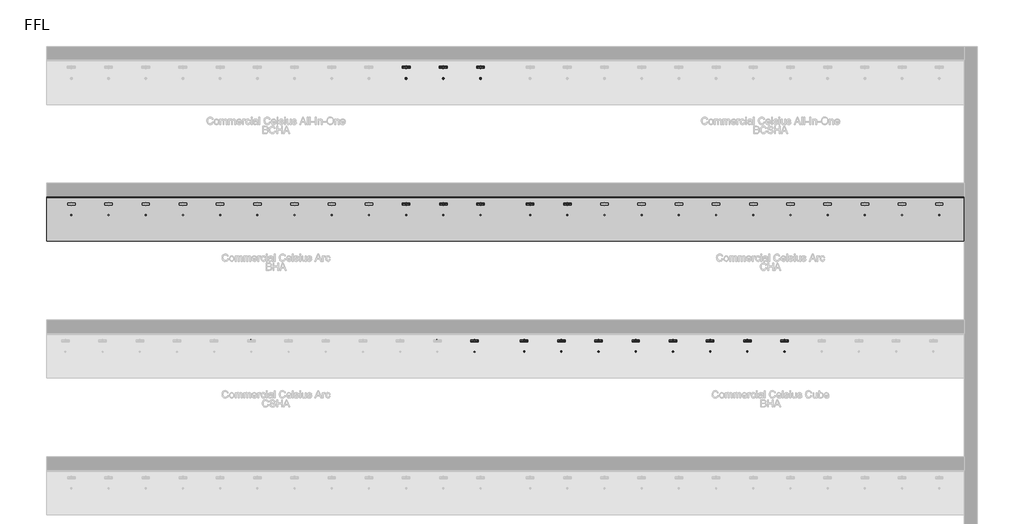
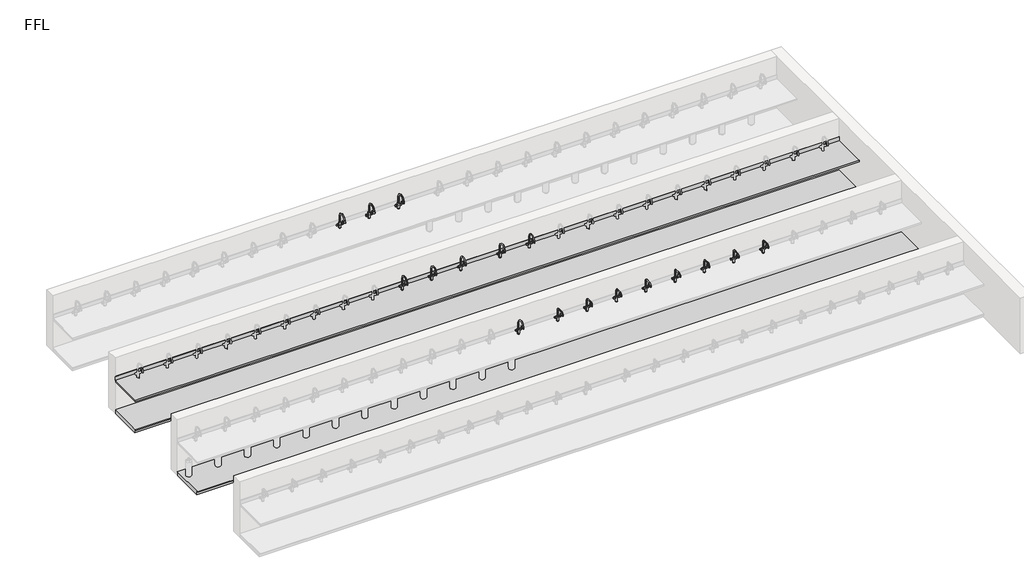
# One storey, part 3 of 9: 27 flow terminals, 3 furniture elements.
"""IFC4 building model written with IfcOpenShell, lengths in millimetres."""

from ifc_helpers import new_model, si_unit, frame, origin, place, context, project, spatial, polyline, circle_curve, transform, mapped, element, save
from ifc_brep_helpers import plane_surface, revolved_surface, advanced_brep
from components import flow_terminal_100_people_nickel_0dc622b1, bright_chrome_ca6152f3, bright_chrome_d5fbbf34, bright_chrome_d1e259f6, generic_plinth_900mm_f287d53f

model = new_model("IFC4")

# Units and contexts
model_context = context("Model", 3, world=origin())
ifc_project = project(units=[si_unit("LENGTHUNIT", "METRE", prefix="MILLI")], contexts=[model_context])

# Site, building, storey
site = spatial("IfcSite", under=ifc_project)
building = spatial("IfcBuilding", under=site)
storey = spatial("IfcBuildingStorey", under=building, Name="FFL", Elevation=0.0)

# Flow terminals
placement = place(None, origin())
flow_terminal_100_people_nickel_shape = flow_terminal_100_people_nickel_0dc622b1(model_context)
element("IfcFlowTerminal", 1, ObjectType="PlumFixt_Zip Commercial_Celsius Arc_CHA : 100 People - Bright Chrome", at=placement, inside=storey, context=model_context, shape_type="MappedRepresentation", body=[
    mapped(flow_terminal_100_people_nickel_shape, transform((2779.2647071, 4822.7393304, 0.0), x_axis=(1.0, 0.0, 0.0), y_axis=(0.0, 1.0, 0.0), z_axis=(0.0, 0.0, 1.0))),
])
element("IfcFlowTerminal", 2, ObjectType="PlumFixt_Zip Commercial_Celsius Arc_CHA : 100 People - Brushed Chrome", at=placement, inside=storey, context=model_context, shape_type="MappedRepresentation", body=[
    mapped(flow_terminal_100_people_nickel_shape, transform((3529.2647071, 4822.7393304, 0.0), x_axis=(1.0, 0.0, 0.0), y_axis=(0.0, 1.0, 0.0), z_axis=(0.0, 0.0, 1.0))),
])
element("IfcFlowTerminal", 3, ObjectType="PlumFixt_Zip Commercial_Celsius Cube_BHA : 100 People - Gold", at=placement, inside=storey, context=model_context, shape_type="MappedRepresentation", body=[
    mapped(flow_terminal_100_people_nickel_shape, transform((7159.2647071, 2062.7393304, 0.0), x_axis=(1.0, 0.0, 0.0), y_axis=(0.0, 1.0, 0.0), z_axis=(0.0, 0.0, 1.0))),
])
element("IfcFlowTerminal", 4, ObjectType="PlumFixt_Zip Commercial_Celsius Cube_BHA : 100 People - Gunmetal", at=placement, inside=storey, context=model_context, shape_type="MappedRepresentation", body=[
    mapped(flow_terminal_100_people_nickel_shape, transform((7909.2647071, 2062.7393304, 0.0), x_axis=(1.0, 0.0, 0.0), y_axis=(0.0, 1.0, 0.0), z_axis=(0.0, 0.0, 1.0))),
])
element("IfcFlowTerminal", 5, ObjectType="PlumFixt_Zip Commercial_Celsius All-In-One_BCHA : 100 People - Nickel", at=placement, inside=storey, context=model_context, shape_type="MappedRepresentation", body=[
    mapped(flow_terminal_100_people_nickel_shape, transform((279.2647071, 7582.7393304, 0.0), x_axis=(1.0, 0.0, 0.0), y_axis=(0.0, 1.0, 0.0), z_axis=(0.0, 0.0, 1.0))),
])
element("IfcFlowTerminal", 6, ObjectType="PlumFixt_Zip Commercial_Celsius Arc_BHA : 100 People - Nickel", at=placement, inside=storey, context=model_context, shape_type="MappedRepresentation", body=[
    mapped(flow_terminal_100_people_nickel_shape, transform((279.2647071, 4822.7393304, 0.0), x_axis=(1.0, 0.0, 0.0), y_axis=(0.0, 1.0, 0.0), z_axis=(0.0, 0.0, 1.0))),
])
element("IfcFlowTerminal", 7, ObjectType="PlumFixt_Zip Commercial_Celsius All-In-One_BCHA : 100 People - Platinum", at=placement, inside=storey, context=model_context, shape_type="MappedRepresentation", body=[
    mapped(flow_terminal_100_people_nickel_shape, transform((1029.2647071, 7582.7393304, 0.0), x_axis=(1.0, 0.0, 0.0), y_axis=(0.0, 1.0, 0.0), z_axis=(0.0, 0.0, 1.0))),
])
element("IfcFlowTerminal", 8, ObjectType="PlumFixt_Zip Commercial_Celsius Arc_BHA : 100 People - Platinum", at=placement, inside=storey, context=model_context, shape_type="MappedRepresentation", body=[
    mapped(flow_terminal_100_people_nickel_shape, transform((1029.2647071, 4822.7393304, 0.0), x_axis=(1.0, 0.0, 0.0), y_axis=(0.0, 1.0, 0.0), z_axis=(0.0, 0.0, 1.0))),
])
element("IfcFlowTerminal", 9, ObjectType="PlumFixt_Zip Commercial_Celsius All-In-One_BCHA : 100 People - Rose Gold", at=placement, inside=storey, context=model_context, shape_type="MappedRepresentation", body=[
    mapped(flow_terminal_100_people_nickel_shape, transform((1779.2647071, 7582.7393304, 0.0), x_axis=(1.0, 0.0, 0.0), y_axis=(0.0, 1.0, 0.0), z_axis=(0.0, 0.0, 1.0))),
])
element("IfcFlowTerminal", 10, ObjectType="PlumFixt_Zip Commercial_Celsius Arc_BHA : 100 People - Rose Gold", at=placement, inside=storey, context=model_context, shape_type="MappedRepresentation", body=[
    mapped(flow_terminal_100_people_nickel_shape, transform((1779.2647071, 4822.7393304, 0.0), x_axis=(1.0, 0.0, 0.0), y_axis=(0.0, 1.0, 0.0), z_axis=(0.0, 0.0, 1.0))),
])
bright_chrome_shape = bright_chrome_ca6152f3(model_context)
element("IfcFlowTerminal", 11, ObjectType="z_PlumFixt_Zip_Celsius Arc : Bright Chrome", at=placement, inside=storey, context=model_context, shape_type="MappedRepresentation", body=[
    mapped(bright_chrome_shape, transform((2779.2647071, 4849.4893304, 900.0), x_axis=(1.0, 0.0, 0.0), y_axis=(0.0, 1.0, 0.0), z_axis=(0.0, 0.0, 1.0))),
])
bright_chrome_2_shape = bright_chrome_d5fbbf34(model_context)
element("IfcFlowTerminal", 12, ObjectType="z_PlumFixt_Zip_Celsius Cube : Bright Chrome", at=placement, inside=storey, context=model_context, shape_type="MappedRepresentation", body=[
    mapped(bright_chrome_2_shape, transform((2659.2647071, 2089.4893304, 900.0), x_axis=(1.0, 0.0, 0.0), y_axis=(0.0, 1.0, 0.0), z_axis=(0.0, 0.0, 1.0))),
])
element("IfcFlowTerminal", 13, ObjectType="z_PlumFixt_Zip_Celsius Arc : Brushed Chrome", at=placement, inside=storey, context=model_context, shape_type="MappedRepresentation", body=[
    mapped(bright_chrome_shape, transform((3529.2647071, 4849.4893304, 900.0), x_axis=(1.0, 0.0, 0.0), y_axis=(0.0, 1.0, 0.0), z_axis=(0.0, 0.0, 1.0))),
])
element("IfcFlowTerminal", 14, ObjectType="z_PlumFixt_Zip_Celsius Cube : Brushed Chrome", at=placement, inside=storey, context=model_context, shape_type="MappedRepresentation", body=[
    mapped(bright_chrome_2_shape, transform((3409.2647071, 2089.4893304, 900.0), x_axis=(1.0, 0.0, 0.0), y_axis=(0.0, 1.0, 0.0), z_axis=(0.0, 0.0, 1.0))),
])
element("IfcFlowTerminal", 15, ObjectType="z_PlumFixt_Zip_Celsius Cube : Brushed Gold", at=placement, inside=storey, context=model_context, shape_type="MappedRepresentation", body=[
    mapped(bright_chrome_2_shape, transform((4159.2647071, 2089.4893304, 900.0), x_axis=(1.0, 0.0, 0.0), y_axis=(0.0, 1.0, 0.0), z_axis=(0.0, 0.0, 1.0))),
])
element("IfcFlowTerminal", 16, ObjectType="z_PlumFixt_Zip_Celsius Cube : Brushed Nickel", at=placement, inside=storey, context=model_context, shape_type="MappedRepresentation", body=[
    mapped(bright_chrome_2_shape, transform((4909.2647071, 2089.4893304, 900.0), x_axis=(1.0, 0.0, 0.0), y_axis=(0.0, 1.0, 0.0), z_axis=(0.0, 0.0, 1.0))),
])
element("IfcFlowTerminal", 17, ObjectType="z_PlumFixt_Zip_Celsius Cube : Brushed Rose Gold", at=placement, inside=storey, context=model_context, shape_type="MappedRepresentation", body=[
    mapped(bright_chrome_2_shape, transform((5659.2647071, 2089.4893304, 900.0), x_axis=(1.0, 0.0, 0.0), y_axis=(0.0, 1.0, 0.0), z_axis=(0.0, 0.0, 1.0))),
])
element("IfcFlowTerminal", 18, ObjectType="z_PlumFixt_Zip_Celsius Cube : Gloss Black", at=placement, inside=storey, context=model_context, shape_type="MappedRepresentation", body=[
    mapped(bright_chrome_2_shape, transform((6409.2647071, 2089.4893304, 900.0), x_axis=(1.0, 0.0, 0.0), y_axis=(0.0, 1.0, 0.0), z_axis=(0.0, 0.0, 1.0))),
])
element("IfcFlowTerminal", 19, ObjectType="z_PlumFixt_Zip_Celsius Cube : Gold", at=placement, inside=storey, context=model_context, shape_type="MappedRepresentation", body=[
    mapped(bright_chrome_2_shape, transform((7159.2647071, 2089.4893304, 900.0), x_axis=(1.0, 0.0, 0.0), y_axis=(0.0, 1.0, 0.0), z_axis=(0.0, 0.0, 1.0))),
])
element("IfcFlowTerminal", 20, ObjectType="z_PlumFixt_Zip_Celsius Cube : Gunmetal", at=placement, inside=storey, context=model_context, shape_type="MappedRepresentation", body=[
    mapped(bright_chrome_2_shape, transform((7909.2647071, 2089.4893304, 900.0), x_axis=(1.0, 0.0, 0.0), y_axis=(0.0, 1.0, 0.0), z_axis=(0.0, 0.0, 1.0))),
])
bright_chrome_3_shape = bright_chrome_d1e259f6(model_context)
element("IfcFlowTerminal", 21, ObjectType="z_PlumFixt_Zip_Celsius All-In-One : Nickel", at=placement, inside=storey, context=model_context, shape_type="MappedRepresentation", body=[
    mapped(bright_chrome_3_shape, transform((279.2647071, 7621.7393304, 900.0), x_axis=(1.0, 0.0, 0.0), y_axis=(0.0, 1.0, 0.0), z_axis=(0.0, 0.0, 1.0))),
])
element("IfcFlowTerminal", 22, ObjectType="z_PlumFixt_Zip_Celsius Arc : Nickel", at=placement, inside=storey, context=model_context, shape_type="MappedRepresentation", body=[
    mapped(bright_chrome_shape, transform((279.2647071, 4849.4893304, 900.0), x_axis=(1.0, 0.0, 0.0), y_axis=(0.0, 1.0, 0.0), z_axis=(0.0, 0.0, 1.0))),
])
element("IfcFlowTerminal", 23, ObjectType="z_PlumFixt_Zip_Celsius All-In-One : Platinum", at=placement, inside=storey, context=model_context, shape_type="MappedRepresentation", body=[
    mapped(bright_chrome_3_shape, transform((1029.2647071, 7621.7393304, 900.0), x_axis=(1.0, 0.0, 0.0), y_axis=(0.0, 1.0, 0.0), z_axis=(0.0, 0.0, 1.0))),
])
element("IfcFlowTerminal", 24, ObjectType="z_PlumFixt_Zip_Celsius Arc : Platinum", at=placement, inside=storey, context=model_context, shape_type="MappedRepresentation", body=[
    mapped(bright_chrome_shape, transform((1029.2647071, 4849.4893304, 900.0), x_axis=(1.0, 0.0, 0.0), y_axis=(0.0, 1.0, 0.0), z_axis=(0.0, 0.0, 1.0))),
])
element("IfcFlowTerminal", 25, ObjectType="z_PlumFixt_Zip_Celsius All-In-One : Rose Gold", at=placement, inside=storey, context=model_context, shape_type="MappedRepresentation", body=[
    mapped(bright_chrome_3_shape, transform((1779.2647071, 7621.7393304, 900.0), x_axis=(1.0, 0.0, 0.0), y_axis=(0.0, 1.0, 0.0), z_axis=(0.0, 0.0, 1.0))),
])
element("IfcFlowTerminal", 26, ObjectType="z_PlumFixt_Zip_Celsius Arc : Rose Gold", at=placement, inside=storey, context=model_context, shape_type="MappedRepresentation", body=[
    mapped(bright_chrome_shape, transform((1779.2647071, 4849.4893304, 900.0), x_axis=(1.0, 0.0, 0.0), y_axis=(0.0, 1.0, 0.0), z_axis=(0.0, 0.0, 1.0))),
])
element("IfcFlowTerminal", 27, ObjectType="z_PlumFixt_Zip_Celsius Arc : Rose Gold", at=placement, inside=storey, context=model_context, shape_type="MappedRepresentation", body=[
    mapped(bright_chrome_shape, transform((1659.2647071, 2089.4893304, 900.0), x_axis=(1.0, 0.0, 0.0), y_axis=(0.0, 1.0, 0.0), z_axis=(0.0, 0.0, 1.0))),
])

# Furniture
element("IfcFurniture", 28, ObjectType="Counter Top : 900mm Depth", at=placement, inside=storey, context=model_context, shape_type="AdvancedBrep", body=[
    advanced_brep(
    [(-6969.7352929, 4188.2393304, 900.0), (11530.2647071, 4188.2393304, 900.0), (11530.2647071, 5069.1893304, 900.0), (-6969.7352929, 5069.1893304, 900.0), (-6494.2352929, 4938.2393304, 900.0), (-6445.2352929, 4938.2393304, 900.0), (-5744.2352929, 4938.2393304, 900.0), (-5695.2352929, 4938.2393304, 900.0), (-4994.2352929, 4938.2393304, 900.0), (-4945.2352929, 4938.2393304, 900.0), (-4244.2352929, 4938.2393304, 900.0), (-4195.2352929, 4938.2393304, 900.0), (-3494.2352929, 4938.2393304, 900.0), (-3445.2352929, 4938.2393304, 900.0), (-2744.2352929, 4938.2393304, 900.0), (-2695.2352929, 4938.2393304, 900.0), (-1994.2352929, 4938.2393304, 900.0), (-1945.2352929, 4938.2393304, 900.0), (-1244.2352929, 4938.2393304, 900.0), (-1195.2352929, 4938.2393304, 900.0), (-494.2352929, 4938.2393304, 900.0), (-445.2352929, 4938.2393304, 900.0), (255.7647071, 4938.2393304, 900.0), (304.7647071, 4938.2393304, 900.0), (1005.7647071, 4938.2393304, 900.0), (1054.7647071, 4938.2393304, 900.0), (1755.7647071, 4938.2393304, 900.0), (1804.7647071, 4938.2393304, 900.0), (2755.7647071, 4938.2393304, 900.0), (2804.7647071, 4938.2393304, 900.0), (3505.7647071, 4938.2393304, 900.0), (3554.7647071, 4938.2393304, 900.0), (4255.7647071, 4938.2393304, 900.0), (4304.7647071, 4938.2393304, 900.0), (5005.7647071, 4938.2393304, 900.0), (5054.7647071, 4938.2393304, 900.0), (5755.7647071, 4938.2393304, 900.0), (5804.7647071, 4938.2393304, 900.0), (6505.7647071, 4938.2393304, 900.0), (6554.7647071, 4938.2393304, 900.0), (7255.7647071, 4938.2393304, 900.0), (7304.7647071, 4938.2393304, 900.0), (8005.7647071, 4938.2393304, 900.0), (8054.7647071, 4938.2393304, 900.0), (8755.7647071, 4938.2393304, 900.0), (8804.7647071, 4938.2393304, 900.0), (9505.7647071, 4938.2393304, 900.0), (9554.7647071, 4938.2393304, 900.0), (10255.7647071, 4938.2393304, 900.0), (10304.7647071, 4938.2393304, 900.0), (11005.7647071, 4938.2393304, 900.0), (11054.7647071, 4938.2393304, 900.0), (11530.2647071, 5088.2393304, 860.0), (11530.2647071, 4188.2393304, 860.0), (-6969.7352929, 4188.2393304, 860.0), (-6969.7352929, 5088.2393304, 860.0), (-6445.2352929, 4938.2393304, 860.0), (-6494.2352929, 4938.2393304, 860.0), (-5695.2352929, 4938.2393304, 860.0), (-5744.2352929, 4938.2393304, 860.0), (-4945.2352929, 4938.2393304, 860.0), (-4994.2352929, 4938.2393304, 860.0), (-4195.2352929, 4938.2393304, 860.0), (-4244.2352929, 4938.2393304, 860.0), (-3445.2352929, 4938.2393304, 860.0), (-3494.2352929, 4938.2393304, 860.0), (-2695.2352929, 4938.2393304, 860.0), (-2744.2352929, 4938.2393304, 860.0), (-1945.2352929, 4938.2393304, 860.0), (-1994.2352929, 4938.2393304, 860.0), (-1195.2352929, 4938.2393304, 860.0), (-1244.2352929, 4938.2393304, 860.0), (-445.2352929, 4938.2393304, 860.0), (-494.2352929, 4938.2393304, 860.0), (304.7647071, 4938.2393304, 860.0), (255.7647071, 4938.2393304, 860.0), (1054.7647071, 4938.2393304, 860.0), (1005.7647071, 4938.2393304, 860.0), (1804.7647071, 4938.2393304, 860.0), (1755.7647071, 4938.2393304, 860.0), (2804.7647071, 4938.2393304, 860.0), (2755.7647071, 4938.2393304, 860.0), (3554.7647071, 4938.2393304, 860.0), (3505.7647071, 4938.2393304, 860.0), (4304.7647071, 4938.2393304, 860.0), (4255.7647071, 4938.2393304, 860.0), (5054.7647071, 4938.2393304, 860.0), (5005.7647071, 4938.2393304, 860.0), (5804.7647071, 4938.2393304, 860.0), (5755.7647071, 4938.2393304, 860.0), (6554.7647071, 4938.2393304, 860.0), (6505.7647071, 4938.2393304, 860.0), (7304.7647071, 4938.2393304, 860.0), (7255.7647071, 4938.2393304, 860.0), (8054.7647071, 4938.2393304, 860.0), (8005.7647071, 4938.2393304, 860.0), (8804.7647071, 4938.2393304, 860.0), (8755.7647071, 4938.2393304, 860.0), (9554.7647071, 4938.2393304, 860.0), (9505.7647071, 4938.2393304, 860.0), (10304.7647071, 4938.2393304, 860.0), (10255.7647071, 4938.2393304, 860.0), (11054.7647071, 4938.2393304, 860.0), (11005.7647071, 4938.2393304, 860.0), (-6969.7352929, 5088.2393304, 1001.6), (11530.2647071, 5088.2393304, 1001.6), (-6969.7352929, 5069.1893304, 1001.6), (11530.2647071, 5069.1893304, 1001.6)],
    [
        (0, 1),
        (1, 2),
        (2, 3),
        (3, 0),
        (4, 5, circle_curve(frame((-6469.7352929, 4938.2393304, 900.0), z_axis=(0.0, 0.0, -1.0), x_axis=(-1.0, 0.0, 0.0)), 24.5)),
        (5, 4, circle_curve(frame((-6469.7352929, 4938.2393304, 900.0), z_axis=(0.0, 0.0, -1.0), x_axis=(-1.0, 0.0, 0.0)), 24.5)),
        (6, 7, circle_curve(frame((-5719.7352929, 4938.2393304, 900.0), z_axis=(0.0, 0.0, -1.0), x_axis=(-1.0, 0.0, 0.0)), 24.5)),
        (7, 6, circle_curve(frame((-5719.7352929, 4938.2393304, 900.0), z_axis=(0.0, 0.0, -1.0), x_axis=(-1.0, 0.0, 0.0)), 24.5)),
        (8, 9, circle_curve(frame((-4969.7352929, 4938.2393304, 900.0), z_axis=(0.0, 0.0, -1.0), x_axis=(-1.0, 0.0, 0.0)), 24.5)),
        (9, 8, circle_curve(frame((-4969.7352929, 4938.2393304, 900.0), z_axis=(0.0, 0.0, -1.0), x_axis=(-1.0, 0.0, 0.0)), 24.5)),
        (10, 11, circle_curve(frame((-4219.7352929, 4938.2393304, 900.0), z_axis=(0.0, 0.0, -1.0), x_axis=(-1.0, 0.0, 0.0)), 24.5)),
        (11, 10, circle_curve(frame((-4219.7352929, 4938.2393304, 900.0), z_axis=(0.0, 0.0, -1.0), x_axis=(-1.0, 0.0, 0.0)), 24.5)),
        (12, 13, circle_curve(frame((-3469.7352929, 4938.2393304, 900.0), z_axis=(0.0, 0.0, -1.0), x_axis=(-1.0, 0.0, 0.0)), 24.5)),
        (13, 12, circle_curve(frame((-3469.7352929, 4938.2393304, 900.0), z_axis=(0.0, 0.0, -1.0), x_axis=(-1.0, 0.0, 0.0)), 24.5)),
        (14, 15, circle_curve(frame((-2719.7352929, 4938.2393304, 900.0), z_axis=(0.0, 0.0, -1.0), x_axis=(-1.0, 0.0, 0.0)), 24.5)),
        (15, 14, circle_curve(frame((-2719.7352929, 4938.2393304, 900.0), z_axis=(0.0, 0.0, -1.0), x_axis=(-1.0, 0.0, 0.0)), 24.5)),
        (16, 17, circle_curve(frame((-1969.7352929, 4938.2393304, 900.0), z_axis=(0.0, 0.0, -1.0), x_axis=(-1.0, 0.0, 0.0)), 24.5)),
        (17, 16, circle_curve(frame((-1969.7352929, 4938.2393304, 900.0), z_axis=(0.0, 0.0, -1.0), x_axis=(-1.0, 0.0, 0.0)), 24.5)),
        (18, 19, circle_curve(frame((-1219.7352929, 4938.2393304, 900.0), z_axis=(0.0, 0.0, -1.0), x_axis=(-1.0, 0.0, 0.0)), 24.5)),
        (19, 18, circle_curve(frame((-1219.7352929, 4938.2393304, 900.0), z_axis=(0.0, 0.0, -1.0), x_axis=(-1.0, 0.0, 0.0)), 24.5)),
        (20, 21, circle_curve(frame((-469.7352929, 4938.2393304, 900.0), z_axis=(0.0, 0.0, -1.0), x_axis=(-1.0, 0.0, 0.0)), 24.5)),
        (21, 20, circle_curve(frame((-469.7352929, 4938.2393304, 900.0), z_axis=(0.0, 0.0, -1.0), x_axis=(-1.0, 0.0, 0.0)), 24.5)),
        (22, 23, circle_curve(frame((280.2647071, 4938.2393304, 900.0), z_axis=(0.0, 0.0, -1.0), x_axis=(-1.0, 0.0, 0.0)), 24.5)),
        (23, 22, circle_curve(frame((280.2647071, 4938.2393304, 900.0), z_axis=(0.0, 0.0, -1.0), x_axis=(-1.0, 0.0, 0.0)), 24.5)),
        (24, 25, circle_curve(frame((1030.2647071, 4938.2393304, 900.0), z_axis=(0.0, 0.0, -1.0), x_axis=(-1.0, 0.0, 0.0)), 24.5)),
        (25, 24, circle_curve(frame((1030.2647071, 4938.2393304, 900.0), z_axis=(0.0, 0.0, -1.0), x_axis=(-1.0, 0.0, 0.0)), 24.5)),
        (26, 27, circle_curve(frame((1780.2647071, 4938.2393304, 900.0), z_axis=(0.0, 0.0, -1.0), x_axis=(-1.0, 0.0, 0.0)), 24.5)),
        (27, 26, circle_curve(frame((1780.2647071, 4938.2393304, 900.0), z_axis=(0.0, 0.0, -1.0), x_axis=(-1.0, 0.0, 0.0)), 24.5)),
        (28, 29, circle_curve(frame((2780.2647071, 4938.2393304, 900.0), z_axis=(0.0, 0.0, -1.0), x_axis=(-1.0, 0.0, 0.0)), 24.5)),
        (29, 28, circle_curve(frame((2780.2647071, 4938.2393304, 900.0), z_axis=(0.0, 0.0, -1.0), x_axis=(-1.0, 0.0, 0.0)), 24.5)),
        (30, 31, circle_curve(frame((3530.2647071, 4938.2393304, 900.0), z_axis=(0.0, 0.0, -1.0), x_axis=(-1.0, 0.0, 0.0)), 24.5)),
        (31, 30, circle_curve(frame((3530.2647071, 4938.2393304, 900.0), z_axis=(0.0, 0.0, -1.0), x_axis=(-1.0, 0.0, 0.0)), 24.5)),
        (32, 33, circle_curve(frame((4280.2647071, 4938.2393304, 900.0), z_axis=(0.0, 0.0, -1.0), x_axis=(-1.0, 0.0, 0.0)), 24.5)),
        (33, 32, circle_curve(frame((4280.2647071, 4938.2393304, 900.0), z_axis=(0.0, 0.0, -1.0), x_axis=(-1.0, 0.0, 0.0)), 24.5)),
        (34, 35, circle_curve(frame((5030.2647071, 4938.2393304, 900.0), z_axis=(0.0, 0.0, -1.0), x_axis=(-1.0, 0.0, 0.0)), 24.5)),
        (35, 34, circle_curve(frame((5030.2647071, 4938.2393304, 900.0), z_axis=(0.0, 0.0, -1.0), x_axis=(-1.0, 0.0, 0.0)), 24.5)),
        (36, 37, circle_curve(frame((5780.2647071, 4938.2393304, 900.0), z_axis=(0.0, 0.0, -1.0), x_axis=(-1.0, 0.0, 0.0)), 24.5)),
        (37, 36, circle_curve(frame((5780.2647071, 4938.2393304, 900.0), z_axis=(0.0, 0.0, -1.0), x_axis=(-1.0, 0.0, 0.0)), 24.5)),
        (38, 39, circle_curve(frame((6530.2647071, 4938.2393304, 900.0), z_axis=(0.0, 0.0, -1.0), x_axis=(-1.0, 0.0, 0.0)), 24.5)),
        (39, 38, circle_curve(frame((6530.2647071, 4938.2393304, 900.0), z_axis=(0.0, 0.0, -1.0), x_axis=(-1.0, 0.0, 0.0)), 24.5)),
        (40, 41, circle_curve(frame((7280.2647071, 4938.2393304, 900.0), z_axis=(0.0, 0.0, -1.0), x_axis=(-1.0, 0.0, 0.0)), 24.5)),
        (41, 40, circle_curve(frame((7280.2647071, 4938.2393304, 900.0), z_axis=(0.0, 0.0, -1.0), x_axis=(-1.0, 0.0, 0.0)), 24.5)),
        (42, 43, circle_curve(frame((8030.2647071, 4938.2393304, 900.0), z_axis=(0.0, 0.0, -1.0), x_axis=(-1.0, 0.0, 0.0)), 24.5)),
        (43, 42, circle_curve(frame((8030.2647071, 4938.2393304, 900.0), z_axis=(0.0, 0.0, -1.0), x_axis=(-1.0, 0.0, 0.0)), 24.5)),
        (44, 45, circle_curve(frame((8780.2647071, 4938.2393304, 900.0), z_axis=(0.0, 0.0, -1.0), x_axis=(-1.0, 0.0, 0.0)), 24.5)),
        (45, 44, circle_curve(frame((8780.2647071, 4938.2393304, 900.0), z_axis=(0.0, 0.0, -1.0), x_axis=(-1.0, 0.0, 0.0)), 24.5)),
        (46, 47, circle_curve(frame((9530.2647071, 4938.2393304, 900.0), z_axis=(0.0, 0.0, -1.0), x_axis=(-1.0, 0.0, 0.0)), 24.5)),
        (47, 46, circle_curve(frame((9530.2647071, 4938.2393304, 900.0), z_axis=(0.0, 0.0, -1.0), x_axis=(-1.0, 0.0, 0.0)), 24.5)),
        (48, 49, circle_curve(frame((10280.2647071, 4938.2393304, 900.0), z_axis=(0.0, 0.0, -1.0), x_axis=(-1.0, 0.0, 0.0)), 24.5)),
        (49, 48, circle_curve(frame((10280.2647071, 4938.2393304, 900.0), z_axis=(0.0, 0.0, -1.0), x_axis=(-1.0, 0.0, 0.0)), 24.5)),
        (50, 51, circle_curve(frame((11030.2647071, 4938.2393304, 900.0), z_axis=(0.0, 0.0, -1.0), x_axis=(-1.0, 0.0, 0.0)), 24.5)),
        (51, 50, circle_curve(frame((11030.2647071, 4938.2393304, 900.0), z_axis=(0.0, 0.0, -1.0), x_axis=(-1.0, 0.0, 0.0)), 24.5)),
        (52, 53),
        (53, 54),
        (54, 55),
        (55, 52),
        (56, 57, circle_curve(frame((-6469.7352929, 4938.2393304, 860.0), z_axis=(0.0, 0.0, 1.0), x_axis=(-1.0, 0.0, 0.0)), 24.5)),
        (57, 56, circle_curve(frame((-6469.7352929, 4938.2393304, 860.0), z_axis=(0.0, 0.0, 1.0), x_axis=(-1.0, 0.0, 0.0)), 24.5)),
        (58, 59, circle_curve(frame((-5719.7352929, 4938.2393304, 860.0), z_axis=(0.0, 0.0, 1.0), x_axis=(-1.0, 0.0, 0.0)), 24.5)),
        (59, 58, circle_curve(frame((-5719.7352929, 4938.2393304, 860.0), z_axis=(0.0, 0.0, 1.0), x_axis=(-1.0, 0.0, 0.0)), 24.5)),
        (60, 61, circle_curve(frame((-4969.7352929, 4938.2393304, 860.0), z_axis=(0.0, 0.0, 1.0), x_axis=(-1.0, 0.0, 0.0)), 24.5)),
        (61, 60, circle_curve(frame((-4969.7352929, 4938.2393304, 860.0), z_axis=(0.0, 0.0, 1.0), x_axis=(-1.0, 0.0, 0.0)), 24.5)),
        (62, 63, circle_curve(frame((-4219.7352929, 4938.2393304, 860.0), z_axis=(0.0, 0.0, 1.0), x_axis=(-1.0, 0.0, 0.0)), 24.5)),
        (63, 62, circle_curve(frame((-4219.7352929, 4938.2393304, 860.0), z_axis=(0.0, 0.0, 1.0), x_axis=(-1.0, 0.0, 0.0)), 24.5)),
        (64, 65, circle_curve(frame((-3469.7352929, 4938.2393304, 860.0), z_axis=(0.0, 0.0, 1.0), x_axis=(-1.0, 0.0, 0.0)), 24.5)),
        (65, 64, circle_curve(frame((-3469.7352929, 4938.2393304, 860.0), z_axis=(0.0, 0.0, 1.0), x_axis=(-1.0, 0.0, 0.0)), 24.5)),
        (66, 67, circle_curve(frame((-2719.7352929, 4938.2393304, 860.0), z_axis=(0.0, 0.0, 1.0), x_axis=(-1.0, 0.0, 0.0)), 24.5)),
        (67, 66, circle_curve(frame((-2719.7352929, 4938.2393304, 860.0), z_axis=(0.0, 0.0, 1.0), x_axis=(-1.0, 0.0, 0.0)), 24.5)),
        (68, 69, circle_curve(frame((-1969.7352929, 4938.2393304, 860.0), z_axis=(0.0, 0.0, 1.0), x_axis=(-1.0, 0.0, 0.0)), 24.5)),
        (69, 68, circle_curve(frame((-1969.7352929, 4938.2393304, 860.0), z_axis=(0.0, 0.0, 1.0), x_axis=(-1.0, 0.0, 0.0)), 24.5)),
        (70, 71, circle_curve(frame((-1219.7352929, 4938.2393304, 860.0), z_axis=(0.0, 0.0, 1.0), x_axis=(-1.0, 0.0, 0.0)), 24.5)),
        (71, 70, circle_curve(frame((-1219.7352929, 4938.2393304, 860.0), z_axis=(0.0, 0.0, 1.0), x_axis=(-1.0, 0.0, 0.0)), 24.5)),
        (72, 73, circle_curve(frame((-469.7352929, 4938.2393304, 860.0), z_axis=(0.0, 0.0, 1.0), x_axis=(-1.0, 0.0, 0.0)), 24.5)),
        (73, 72, circle_curve(frame((-469.7352929, 4938.2393304, 860.0), z_axis=(0.0, 0.0, 1.0), x_axis=(-1.0, 0.0, 0.0)), 24.5)),
        (74, 75, circle_curve(frame((280.2647071, 4938.2393304, 860.0), z_axis=(0.0, 0.0, 1.0), x_axis=(-1.0, 0.0, 0.0)), 24.5)),
        (75, 74, circle_curve(frame((280.2647071, 4938.2393304, 860.0), z_axis=(0.0, 0.0, 1.0), x_axis=(-1.0, 0.0, 0.0)), 24.5)),
        (76, 77, circle_curve(frame((1030.2647071, 4938.2393304, 860.0), z_axis=(0.0, 0.0, 1.0), x_axis=(-1.0, 0.0, 0.0)), 24.5)),
        (77, 76, circle_curve(frame((1030.2647071, 4938.2393304, 860.0), z_axis=(0.0, 0.0, 1.0), x_axis=(-1.0, 0.0, 0.0)), 24.5)),
        (78, 79, circle_curve(frame((1780.2647071, 4938.2393304, 860.0), z_axis=(0.0, 0.0, 1.0), x_axis=(-1.0, 0.0, 0.0)), 24.5)),
        (79, 78, circle_curve(frame((1780.2647071, 4938.2393304, 860.0), z_axis=(0.0, 0.0, 1.0), x_axis=(-1.0, 0.0, 0.0)), 24.5)),
        (80, 81, circle_curve(frame((2780.2647071, 4938.2393304, 860.0), z_axis=(0.0, 0.0, 1.0), x_axis=(-1.0, 0.0, 0.0)), 24.5)),
        (81, 80, circle_curve(frame((2780.2647071, 4938.2393304, 860.0), z_axis=(0.0, 0.0, 1.0), x_axis=(-1.0, 0.0, 0.0)), 24.5)),
        (82, 83, circle_curve(frame((3530.2647071, 4938.2393304, 860.0), z_axis=(0.0, 0.0, 1.0), x_axis=(-1.0, 0.0, 0.0)), 24.5)),
        (83, 82, circle_curve(frame((3530.2647071, 4938.2393304, 860.0), z_axis=(0.0, 0.0, 1.0), x_axis=(-1.0, 0.0, 0.0)), 24.5)),
        (84, 85, circle_curve(frame((4280.2647071, 4938.2393304, 860.0), z_axis=(0.0, 0.0, 1.0), x_axis=(-1.0, 0.0, 0.0)), 24.5)),
        (85, 84, circle_curve(frame((4280.2647071, 4938.2393304, 860.0), z_axis=(0.0, 0.0, 1.0), x_axis=(-1.0, 0.0, 0.0)), 24.5)),
        (86, 87, circle_curve(frame((5030.2647071, 4938.2393304, 860.0), z_axis=(0.0, 0.0, 1.0), x_axis=(-1.0, 0.0, 0.0)), 24.5)),
        (87, 86, circle_curve(frame((5030.2647071, 4938.2393304, 860.0), z_axis=(0.0, 0.0, 1.0), x_axis=(-1.0, 0.0, 0.0)), 24.5)),
        (88, 89, circle_curve(frame((5780.2647071, 4938.2393304, 860.0), z_axis=(0.0, 0.0, 1.0), x_axis=(-1.0, 0.0, 0.0)), 24.5)),
        (89, 88, circle_curve(frame((5780.2647071, 4938.2393304, 860.0), z_axis=(0.0, 0.0, 1.0), x_axis=(-1.0, 0.0, 0.0)), 24.5)),
        (90, 91, circle_curve(frame((6530.2647071, 4938.2393304, 860.0), z_axis=(0.0, 0.0, 1.0), x_axis=(-1.0, 0.0, 0.0)), 24.5)),
        (91, 90, circle_curve(frame((6530.2647071, 4938.2393304, 860.0), z_axis=(0.0, 0.0, 1.0), x_axis=(-1.0, 0.0, 0.0)), 24.5)),
        (92, 93, circle_curve(frame((7280.2647071, 4938.2393304, 860.0), z_axis=(0.0, 0.0, 1.0), x_axis=(-1.0, 0.0, 0.0)), 24.5)),
        (93, 92, circle_curve(frame((7280.2647071, 4938.2393304, 860.0), z_axis=(0.0, 0.0, 1.0), x_axis=(-1.0, 0.0, 0.0)), 24.5)),
        (94, 95, circle_curve(frame((8030.2647071, 4938.2393304, 860.0), z_axis=(0.0, 0.0, 1.0), x_axis=(-1.0, 0.0, 0.0)), 24.5)),
        (95, 94, circle_curve(frame((8030.2647071, 4938.2393304, 860.0), z_axis=(0.0, 0.0, 1.0), x_axis=(-1.0, 0.0, 0.0)), 24.5)),
        (96, 97, circle_curve(frame((8780.2647071, 4938.2393304, 860.0), z_axis=(0.0, 0.0, 1.0), x_axis=(-1.0, 0.0, 0.0)), 24.5)),
        (97, 96, circle_curve(frame((8780.2647071, 4938.2393304, 860.0), z_axis=(0.0, 0.0, 1.0), x_axis=(-1.0, 0.0, 0.0)), 24.5)),
        (98, 99, circle_curve(frame((9530.2647071, 4938.2393304, 860.0), z_axis=(0.0, 0.0, 1.0), x_axis=(-1.0, 0.0, 0.0)), 24.5)),
        (99, 98, circle_curve(frame((9530.2647071, 4938.2393304, 860.0), z_axis=(0.0, 0.0, 1.0), x_axis=(-1.0, 0.0, 0.0)), 24.5)),
        (100, 101, circle_curve(frame((10280.2647071, 4938.2393304, 860.0), z_axis=(0.0, 0.0, 1.0), x_axis=(-1.0, 0.0, 0.0)), 24.5)),
        (101, 100, circle_curve(frame((10280.2647071, 4938.2393304, 860.0), z_axis=(0.0, 0.0, 1.0), x_axis=(-1.0, 0.0, 0.0)), 24.5)),
        (102, 103, circle_curve(frame((11030.2647071, 4938.2393304, 860.0), z_axis=(0.0, 0.0, 1.0), x_axis=(-1.0, 0.0, 0.0)), 24.5)),
        (103, 102, circle_curve(frame((11030.2647071, 4938.2393304, 860.0), z_axis=(0.0, 0.0, 1.0), x_axis=(-1.0, 0.0, 0.0)), 24.5)),
        (55, 104),
        (104, 105),
        (105, 52),
        (3, 106),
        (106, 104),
        (54, 0),
        (53, 1),
        (105, 107),
        (107, 2),
        (106, 107),
        (56, 5),
        (4, 57),
        (58, 7),
        (6, 59),
        (60, 9),
        (8, 61),
        (62, 11),
        (10, 63),
        (64, 13),
        (12, 65),
        (66, 15),
        (14, 67),
        (68, 17),
        (16, 69),
        (70, 19),
        (18, 71),
        (72, 21),
        (20, 73),
        (74, 23),
        (22, 75),
        (76, 25),
        (24, 77),
        (78, 27),
        (26, 79),
        (80, 29),
        (28, 81),
        (82, 31),
        (30, 83),
        (84, 33),
        (32, 85),
        (86, 35),
        (34, 87),
        (88, 37),
        (36, 89),
        (90, 39),
        (38, 91),
        (92, 41),
        (40, 93),
        (94, 43),
        (42, 95),
        (96, 45),
        (44, 97),
        (98, 47),
        (46, 99),
        (100, 49),
        (48, 101),
        (102, 51),
        (50, 103),
    ],
    [
        plane_surface(frame((-6969.7352929, 5088.2393304, 900.0), z_axis=(0.0, 0.0, 1.0), x_axis=(-1.0, 0.0, 0.0))),
        plane_surface(frame((-6969.7352929, 5088.2393304, 860.0), z_axis=(0.0, 0.0, -1.0), x_axis=(1.0, 0.0, 0.0))),
        plane_surface(frame((11530.2647071, 5088.2393304, 900.0), z_axis=(0.0, 1.0, 0.0), x_axis=(0.0, 0.0, -1.0))),
        plane_surface(frame((-6969.7352929, 5088.2393304, 900.0), z_axis=(-1.0, 0.0, 0.0), x_axis=(0.0, 0.0, -1.0))),
        plane_surface(frame((-6969.7352929, 4188.2393304, 900.0), z_axis=(0.0, -1.0, 0.0), x_axis=(0.0, 0.0, -1.0))),
        plane_surface(frame((11530.2647071, 4188.2393304, 900.0), z_axis=(1.0, 0.0, 0.0), x_axis=(0.0, 0.0, -1.0))),
        plane_surface(frame((-6969.7352929, 5088.2393304, 1001.6), z_axis=(0.0, 0.0, 1.0), x_axis=(0.0, -1.0, 0.0))),
        plane_surface(frame((-6969.7352929, 5069.1893304, 1001.6), z_axis=(0.0, -1.0, 0.0), x_axis=(0.0, 0.0, -1.0))),
        revolved_surface(polyline([(-6494.2352929, 4938.2393304, 900.0), (-6494.2352929, 4938.2393304, 860.0)]), (-6469.7352929, 4938.2393304, 850.0), (0.0, 0.0, 1.0)),
        revolved_surface(polyline([(-5744.2352929, 4938.2393304, 900.0), (-5744.2352929, 4938.2393304, 860.0)]), (-5719.7352929, 4938.2393304, 850.0), (0.0, 0.0, 1.0)),
        revolved_surface(polyline([(-4994.2352929, 4938.2393304, 900.0), (-4994.2352929, 4938.2393304, 860.0)]), (-4969.7352929, 4938.2393304, 850.0), (0.0, 0.0, 1.0)),
        revolved_surface(polyline([(-4244.2352929, 4938.2393304, 900.0), (-4244.2352929, 4938.2393304, 860.0)]), (-4219.7352929, 4938.2393304, 850.0), (0.0, 0.0, 1.0)),
        revolved_surface(polyline([(-3494.2352929, 4938.2393304, 900.0), (-3494.2352929, 4938.2393304, 860.0)]), (-3469.7352929, 4938.2393304, 850.0), (0.0, 0.0, 1.0)),
        revolved_surface(polyline([(-2744.2352929, 4938.2393304, 900.0), (-2744.2352929, 4938.2393304, 860.0)]), (-2719.7352929, 4938.2393304, 850.0), (0.0, 0.0, 1.0)),
        revolved_surface(polyline([(-1994.2352929, 4938.2393304, 900.0), (-1994.2352929, 4938.2393304, 860.0)]), (-1969.7352929, 4938.2393304, 850.0), (0.0, 0.0, 1.0)),
        revolved_surface(polyline([(-1244.2352929, 4938.2393304, 900.0), (-1244.2352929, 4938.2393304, 860.0)]), (-1219.7352929, 4938.2393304, 850.0), (0.0, 0.0, 1.0)),
        revolved_surface(polyline([(-494.2352929, 4938.2393304, 900.0), (-494.2352929, 4938.2393304, 860.0)]), (-469.7352929, 4938.2393304, 850.0), (0.0, 0.0, 1.0)),
        revolved_surface(polyline([(255.7647071, 4938.2393304, 900.0), (255.7647071, 4938.2393304, 860.0)]), (280.2647071, 4938.2393304, 850.0), (0.0, 0.0, 1.0)),
        revolved_surface(polyline([(1005.7647070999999, 4938.2393304, 900.0), (1005.7647070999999, 4938.2393304, 860.0)]), (1030.2647071, 4938.2393304, 850.0), (0.0, 0.0, 1.0)),
        revolved_surface(polyline([(1755.7647071, 4938.2393304, 900.0), (1755.7647071, 4938.2393304, 860.0)]), (1780.2647071, 4938.2393304, 850.0), (0.0, 0.0, 1.0)),
        revolved_surface(polyline([(2755.7647071, 4938.2393304, 900.0), (2755.7647071, 4938.2393304, 860.0)]), (2780.2647071, 4938.2393304, 850.0), (0.0, 0.0, 1.0)),
        revolved_surface(polyline([(3505.7647071, 4938.2393304, 900.0), (3505.7647071, 4938.2393304, 860.0)]), (3530.2647071, 4938.2393304, 850.0), (0.0, 0.0, 1.0)),
        revolved_surface(polyline([(4255.7647071, 4938.2393304, 900.0), (4255.7647071, 4938.2393304, 860.0)]), (4280.2647071, 4938.2393304, 850.0), (0.0, 0.0, 1.0)),
        revolved_surface(polyline([(5005.7647071, 4938.2393304, 900.0), (5005.7647071, 4938.2393304, 860.0)]), (5030.2647071, 4938.2393304, 850.0), (0.0, 0.0, 1.0)),
        revolved_surface(polyline([(5755.7647071, 4938.2393304, 900.0), (5755.7647071, 4938.2393304, 860.0)]), (5780.2647071, 4938.2393304, 850.0), (0.0, 0.0, 1.0)),
        revolved_surface(polyline([(6505.7647071, 4938.2393304, 900.0), (6505.7647071, 4938.2393304, 860.0)]), (6530.2647071, 4938.2393304, 850.0), (0.0, 0.0, 1.0)),
        revolved_surface(polyline([(7255.7647071, 4938.2393304, 900.0), (7255.7647071, 4938.2393304, 860.0)]), (7280.2647071, 4938.2393304, 850.0), (0.0, 0.0, 1.0)),
        revolved_surface(polyline([(8005.7647071, 4938.2393304, 900.0), (8005.7647071, 4938.2393304, 860.0)]), (8030.2647071, 4938.2393304, 850.0), (0.0, 0.0, 1.0)),
        revolved_surface(polyline([(8755.7647071, 4938.2393304, 900.0), (8755.7647071, 4938.2393304, 860.0)]), (8780.2647071, 4938.2393304, 850.0), (0.0, 0.0, 1.0)),
        revolved_surface(polyline([(9505.7647071, 4938.2393304, 900.0), (9505.7647071, 4938.2393304, 860.0)]), (9530.2647071, 4938.2393304, 850.0), (0.0, 0.0, 1.0)),
        revolved_surface(polyline([(10255.7647071, 4938.2393304, 900.0), (10255.7647071, 4938.2393304, 860.0)]), (10280.2647071, 4938.2393304, 850.0), (0.0, 0.0, 1.0)),
        revolved_surface(polyline([(11005.7647071, 4938.2393304, 900.0), (11005.7647071, 4938.2393304, 860.0)]), (11030.2647071, 4938.2393304, 850.0), (0.0, 0.0, 1.0)),
    ],
    [
        (0, [[1, 2, 3, 4], [5, 6], [7, 8], [9, 10], [11, 12], [13, 14], [15, 16], [17, 18], [19, 20], [21, 22], [23, 24], [25, 26], [27, 28], [29, 30], [31, 32], [33, 34], [35, 36], [37, 38], [39, 40], [41, 42], [43, 44], [45, 46], [47, 48], [49, 50], [51, 52]]),
        (1, [[53, 54, 55, 56], [57, 58], [59, 60], [61, 62], [63, 64], [65, 66], [67, 68], [69, 70], [71, 72], [73, 74], [75, 76], [77, 78], [79, 80], [81, 82], [83, 84], [85, 86], [87, 88], [89, 90], [91, 92], [93, 94], [95, 96], [97, 98], [99, 100], [101, 102], [103, 104]]),
        (2, [[-56, 105, 106, 107]]),
        (3, [[-4, 108, 109, -105, -55, 110]]),
        (4, [[-1, -110, -54, 111]]),
        (5, [[-2, -111, -53, -107, 112, 113]]),
        (6, [[-106, -109, 114, -112]]),
        (7, [[-3, -113, -114, -108]]),
        (8, [[115, -5, 116, -57]]),
        (8, [[-115, -58, -116, -6]]),
        (9, [[117, -7, 118, -59]]),
        (9, [[-117, -60, -118, -8]]),
        (10, [[119, -9, 120, -61]]),
        (10, [[-119, -62, -120, -10]]),
        (11, [[121, -11, 122, -63]]),
        (11, [[-121, -64, -122, -12]]),
        (12, [[123, -13, 124, -65]]),
        (12, [[-123, -66, -124, -14]]),
        (13, [[125, -15, 126, -67]]),
        (13, [[-125, -68, -126, -16]]),
        (14, [[127, -17, 128, -69]]),
        (14, [[-127, -70, -128, -18]]),
        (15, [[129, -19, 130, -71]]),
        (15, [[-129, -72, -130, -20]]),
        (16, [[131, -21, 132, -73]]),
        (16, [[-131, -74, -132, -22]]),
        (17, [[133, -23, 134, -75]]),
        (17, [[-133, -76, -134, -24]]),
        (18, [[135, -25, 136, -77]]),
        (18, [[-135, -78, -136, -26]]),
        (19, [[137, -27, 138, -79]]),
        (19, [[-137, -80, -138, -28]]),
        (20, [[139, -29, 140, -81]]),
        (20, [[-139, -82, -140, -30]]),
        (21, [[141, -31, 142, -83]]),
        (21, [[-141, -84, -142, -32]]),
        (22, [[143, -33, 144, -85]]),
        (22, [[-143, -86, -144, -34]]),
        (23, [[145, -35, 146, -87]]),
        (23, [[-145, -88, -146, -36]]),
        (24, [[147, -37, 148, -89]]),
        (24, [[-147, -90, -148, -38]]),
        (25, [[149, -39, 150, -91]]),
        (25, [[-149, -92, -150, -40]]),
        (26, [[151, -41, 152, -93]]),
        (26, [[-151, -94, -152, -42]]),
        (27, [[153, -43, 154, -95]]),
        (27, [[-153, -96, -154, -44]]),
        (28, [[155, -45, 156, -97]]),
        (28, [[-155, -98, -156, -46]]),
        (29, [[157, -47, 158, -99]]),
        (29, [[-157, -100, -158, -48]]),
        (30, [[159, -49, 160, -101]]),
        (30, [[-159, -102, -160, -50]]),
        (31, [[161, -51, 162, -103]]),
        (31, [[-161, -104, -162, -52]]),
    ],
),
])
generic_plinth_900mm_shape = generic_plinth_900mm_f287d53f(model_context)
element("IfcFurniture", 29, ObjectType="Generic Plinth : 900mm", at=placement, inside=storey, context=model_context, shape_type="MappedRepresentation", body=[
    mapped(generic_plinth_900mm_shape, transform((2261.5270022, 5088.2393304, 0.0), x_axis=(1.0, 0.0, 0.0), y_axis=(0.0, 1.0, 0.0), z_axis=(0.0, 0.0, 1.0))),
])
element("IfcFurniture", 30, ObjectType="Generic Plinth : 900mm", at=placement, inside=storey, context=model_context, shape_type="MappedRepresentation", body=[
    mapped(generic_plinth_900mm_shape, transform((2261.5270022, 2328.2393304, 0.0), x_axis=(1.0, 0.0, 0.0), y_axis=(0.0, 1.0, 0.0), z_axis=(0.0, 0.0, 1.0))),
])

save(model, "model.ifc")
